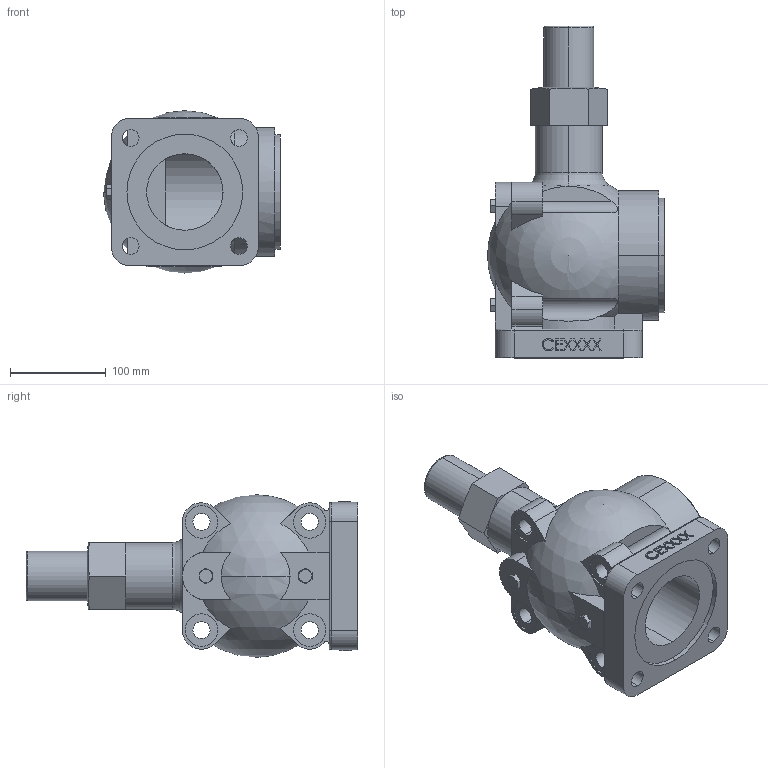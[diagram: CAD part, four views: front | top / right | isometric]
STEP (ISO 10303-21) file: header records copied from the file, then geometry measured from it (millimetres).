
FILE_DESCRIPTION (( 'STEP AP203' ), '1' );
FILE_NAME ('3吋關斷閥.STEP', '2014-04-17T01:14:34', ( 'jameswang' ), ( '' ), 'SwSTEP 2.0', 'SolidWorks 2013', '' );
FILE_SCHEMA (( 'CONFIG_CONTROL_DESIGN' ));
Length unit declared in the file: centimetre
Products named in the file (3): 4305-911A; 3188-8300; 3吋關斷閥
Assembly tree (3 placements, depth 2):
  3吋關斷閥
    4305-911A  x2
    3188-8300
Bounding box: 185 x 347 x 170 mm (x, y, z)
Volume: 2996392.2 mm3; surface area: 261542.5 mm2
Topology: 3 solids, 3 shells, 364 faces, 971 edges, 632 vertices
Faces by surface type: plane 231, cylinder 73, bspline 32, cone 18, torus 8, sphere 2
Entity records: 13504 total; most frequent: CARTESIAN_POINT 4520, ORIENTED_EDGE 1858, DIRECTION 1694, EDGE_CURVE 929, LINE 628, VECTOR 628, VERTEX_POINT 608, AXIS2_PLACEMENT_3D 533
